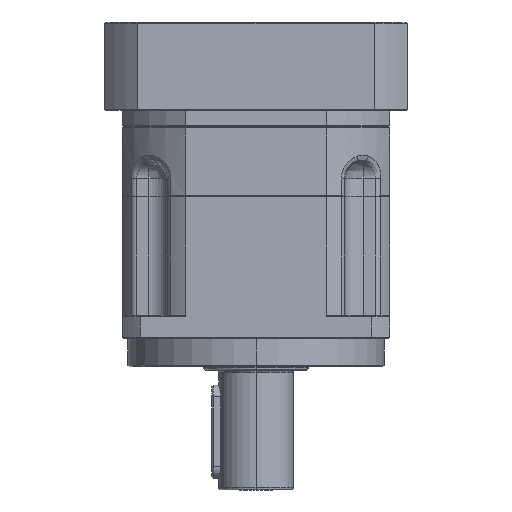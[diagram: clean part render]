
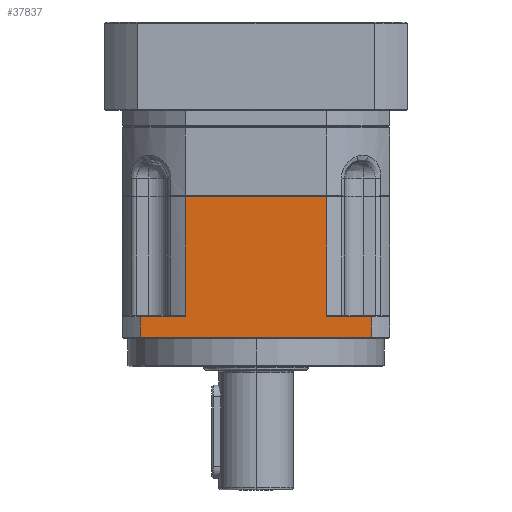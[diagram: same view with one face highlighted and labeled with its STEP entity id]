
A CAD part, left-side view. The second image highlights one B-rep face of the part: STEP entity #37837.
In plain terms, the highlighted planar face has unit normal (-1, 0, 0).
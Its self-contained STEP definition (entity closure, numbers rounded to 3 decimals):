
#488 = VERTEX_POINT ( 'NONE', #40974 ) ;
#1476 = CARTESIAN_POINT ( 'NONE',  ( -57.5, -49.697, 12.5 ) ) ;
#1976 = PLANE ( 'NONE',  #72967 ) ;
#4787 = VECTOR ( 'NONE', #7161, 1000. ) ;
#5221 = ORIENTED_EDGE ( 'NONE', *, *, #19762, .T. ) ;
#7161 = DIRECTION ( 'NONE',  ( 0., 0., 1. ) ) ;
#9376 = CARTESIAN_POINT ( 'NONE',  ( -57.5, -30.311, 73. ) ) ;
#9417 = VECTOR ( 'NONE', #70676, 1000. ) ;
#10622 = EDGE_CURVE ( 'NONE', #488, #30822, #52840, .T. ) ;
#10659 = LINE ( 'NONE', #45730, #25760 ) ;
#13416 = DIRECTION ( 'NONE',  ( -1., 0., 0. ) ) ;
#14118 = LINE ( 'NONE', #61142, #72646 ) ;
#14320 = ORIENTED_EDGE ( 'NONE', *, *, #55490, .T. ) ;
#16414 = VERTEX_POINT ( 'NONE', #46662 ) ;
#18444 = VERTEX_POINT ( 'NONE', #9376 ) ;
#18871 = DIRECTION ( 'NONE',  ( 0., 0., -1. ) ) ;
#19762 = EDGE_CURVE ( 'NONE', #16414, #61167, #70590, .T. ) ;
#25199 = ORIENTED_EDGE ( 'NONE', *, *, #26955, .T. ) ;
#25760 = VECTOR ( 'NONE', #68832, 1000. ) ;
#26205 = CARTESIAN_POINT ( 'NONE',  ( -57.5, -49.697, 21.5 ) ) ;
#26444 = CARTESIAN_POINT ( 'NONE',  ( -57.5, 0., 21.5 ) ) ;
#26955 = EDGE_CURVE ( 'NONE', #53298, #68151, #10659, .T. ) ;
#27029 = CARTESIAN_POINT ( 'NONE',  ( -57.5, -30.311, 21.5 ) ) ;
#28211 = LINE ( 'NONE', #73438, #56584 ) ;
#28506 = FACE_OUTER_BOUND ( 'NONE', #50948, .T. ) ;
#30079 = VERTEX_POINT ( 'NONE', #27029 ) ;
#30822 = VERTEX_POINT ( 'NONE', #70005 ) ;
#31125 = EDGE_CURVE ( 'NONE', #18444, #16414, #28211, .T. ) ;
#33082 = DIRECTION ( 'NONE',  ( 0., 1., 0. ) ) ;
#33184 = ORIENTED_EDGE ( 'NONE', *, *, #34845, .T. ) ;
#34845 = EDGE_CURVE ( 'NONE', #30079, #18444, #65128, .T. ) ;
#35451 = VECTOR ( 'NONE', #66814, 1000. ) ;
#37241 = LINE ( 'NONE', #61123, #35451 ) ;
#37804 = ORIENTED_EDGE ( 'NONE', *, *, #31125, .T. ) ;
#37837 = ADVANCED_FACE ( 'NONE', ( #28506 ), #1976, .T. ) ;
#40974 = CARTESIAN_POINT ( 'NONE',  ( -57.5, 49.697, 21.5 ) ) ;
#41108 = CARTESIAN_POINT ( 'NONE',  ( -57.5, -30.311, 42.75 ) ) ;
#41625 = CARTESIAN_POINT ( 'NONE',  ( -57.5, -49.697, 12.5 ) ) ;
#42005 = EDGE_CURVE ( 'NONE', #68151, #30079, #14118, .T. ) ;
#44667 = VECTOR ( 'NONE', #72028, 1000. ) ;
#44839 = CARTESIAN_POINT ( 'NONE',  ( -57.5, 30.311, 21.5 ) ) ;
#45730 = CARTESIAN_POINT ( 'NONE',  ( -57.5, -49.697, 42.75 ) ) ;
#46436 = LINE ( 'NONE', #26444, #44667 ) ;
#46662 = CARTESIAN_POINT ( 'NONE',  ( -57.5, 30.311, 73. ) ) ;
#46981 = ORIENTED_EDGE ( 'NONE', *, *, #10622, .T. ) ;
#47089 = CARTESIAN_POINT ( 'NONE',  ( -57.5, 30.311, 42.75 ) ) ;
#48287 = EDGE_CURVE ( 'NONE', #61167, #488, #46436, .T. ) ;
#50823 = ORIENTED_EDGE ( 'NONE', *, *, #42005, .T. ) ;
#50948 = EDGE_LOOP ( 'NONE', ( #33184, #37804, #5221, #68512, #46981, #14320, #25199, #50823 ) ) ;
#52840 = LINE ( 'NONE', #53081, #9417 ) ;
#53038 = DIRECTION ( 'NONE',  ( 0., 0., 1. ) ) ;
#53081 = CARTESIAN_POINT ( 'NONE',  ( -57.5, 49.697, 17. ) ) ;
#53298 = VERTEX_POINT ( 'NONE', #1476 ) ;
#55490 = EDGE_CURVE ( 'NONE', #30822, #53298, #37241, .T. ) ;
#56584 = VECTOR ( 'NONE', #67740, 1000. ) ;
#61123 = CARTESIAN_POINT ( 'NONE',  ( -57.5, 0., 12.5 ) ) ;
#61142 = CARTESIAN_POINT ( 'NONE',  ( -57.5, 0., 21.5 ) ) ;
#61167 = VERTEX_POINT ( 'NONE', #44839 ) ;
#65128 = LINE ( 'NONE', #41108, #4787 ) ;
#66814 = DIRECTION ( 'NONE',  ( 0., -1., 0. ) ) ;
#67059 = VECTOR ( 'NONE', #18871, 1000. ) ;
#67740 = DIRECTION ( 'NONE',  ( 0., 1., 0. ) ) ;
#68151 = VERTEX_POINT ( 'NONE', #26205 ) ;
#68512 = ORIENTED_EDGE ( 'NONE', *, *, #48287, .T. ) ;
#68832 = DIRECTION ( 'NONE',  ( 0., 0., 1. ) ) ;
#70005 = CARTESIAN_POINT ( 'NONE',  ( -57.5, 49.697, 12.5 ) ) ;
#70590 = LINE ( 'NONE', #47089, #67059 ) ;
#70676 = DIRECTION ( 'NONE',  ( 0., 0., -1. ) ) ;
#72028 = DIRECTION ( 'NONE',  ( 0., 1., 0. ) ) ;
#72646 = VECTOR ( 'NONE', #33082, 1000. ) ;
#72967 = AXIS2_PLACEMENT_3D ( 'NONE', #41625, #13416, #53038 ) ;
#73438 = CARTESIAN_POINT ( 'NONE',  ( -57.5, 0., 73. ) ) ;
